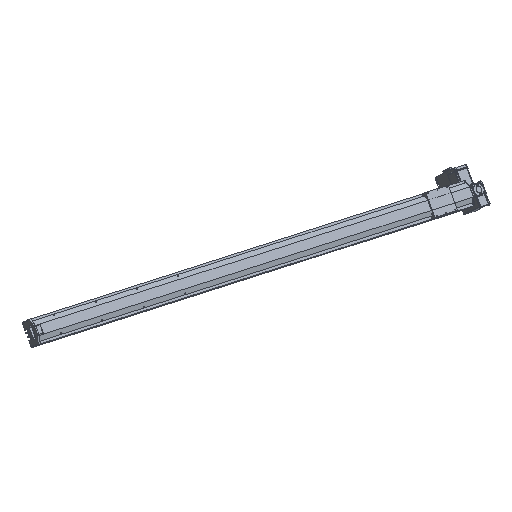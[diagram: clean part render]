
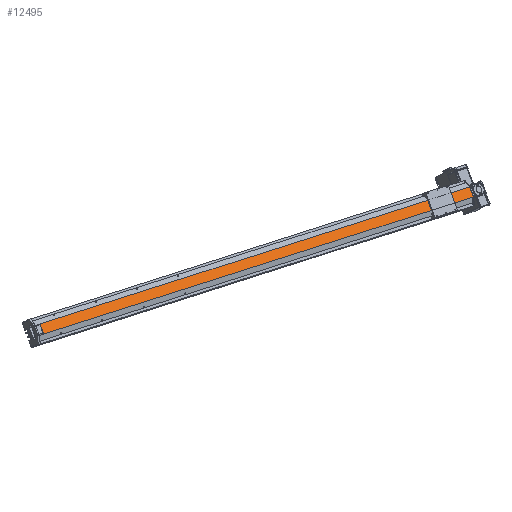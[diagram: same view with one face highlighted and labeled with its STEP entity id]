
A CAD part, front view. The second image highlights one B-rep face of the part: STEP entity #12495.
In plain terms, the highlighted planar face has unit normal (0.532, -0.806, 0.258) as drawn and (0, 1, 0) by its records, which use the part's own axes.
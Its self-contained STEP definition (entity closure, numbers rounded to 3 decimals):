
#7634 = CARTESIAN_POINT ( 'NONE',  ( 20., 61.75, 5.114 ) ) ;
#7642 = CARTESIAN_POINT ( 'NONE',  ( 20., 61.75, 0. ) ) ;
#7645 = DIRECTION ( 'NONE',  ( 0., 0., -1. ) ) ;
#7646 = VECTOR ( 'NONE', #7645, 1000. ) ;
#7654 = CARTESIAN_POINT ( 'NONE',  ( 20., 61.75, 2100. ) ) ;
#7661 = LINE ( 'NONE', #7654, #7646 ) ;
#12483 = EDGE_CURVE ( 'NONE', #12496, #12489, #22910, .T. ) ;
#12484 = EDGE_LOOP ( 'NONE', ( #12499, #12561, #12536, #12543, #12503 ) ) ;
#12488 = EDGE_CURVE ( 'NONE', #12489, #12558, #22866, .T. ) ;
#12489 = VERTEX_POINT ( 'NONE', #22948 ) ;
#12495 = ADVANCED_FACE ( 'NONE', ( #22940 ), #22900, .F. ) ;
#12496 = VERTEX_POINT ( 'NONE', #22933 ) ;
#12499 = ORIENTED_EDGE ( 'NONE', *, *, #12557, .T. ) ;
#12503 = ORIENTED_EDGE ( 'NONE', *, *, #20078, .T. ) ;
#12536 = ORIENTED_EDGE ( 'NONE', *, *, #12483, .F. ) ;
#12537 = EDGE_CURVE ( 'NONE', #12496, #20095, #23028, .T. ) ;
#12543 = ORIENTED_EDGE ( 'NONE', *, *, #12537, .T. ) ;
#12557 = EDGE_CURVE ( 'NONE', #20091, #12558, #23060, .T. ) ;
#12558 = VERTEX_POINT ( 'NONE', #23062 ) ;
#12561 = ORIENTED_EDGE ( 'NONE', *, *, #12488, .F. ) ;
#20078 = EDGE_CURVE ( 'NONE', #20095, #20091, #7661, .T. ) ;
#20091 = VERTEX_POINT ( 'NONE', #7642 ) ;
#20095 = VERTEX_POINT ( 'NONE', #7634 ) ;
#22866 = LINE ( 'NONE', #22896, #22895 ) ;
#22895 = VECTOR ( 'NONE', #22946, 1000. ) ;
#22896 = CARTESIAN_POINT ( 'NONE',  ( -20., 61.75, 2100. ) ) ;
#22900 = PLANE ( 'NONE',  #22935 ) ;
#22905 = CARTESIAN_POINT ( 'NONE',  ( 20., 61.75, 2100. ) ) ;
#22907 = DIRECTION ( 'NONE',  ( -1., 0., 0. ) ) ;
#22908 = VECTOR ( 'NONE', #22907, 1000. ) ;
#22909 = CARTESIAN_POINT ( 'NONE',  ( 20., 61.75, 2100. ) ) ;
#22910 = LINE ( 'NONE', #22909, #22908 ) ;
#22930 = DIRECTION ( 'NONE',  ( 0., 0., -1. ) ) ;
#22931 = DIRECTION ( 'NONE',  ( 0., -1., 0. ) ) ;
#22933 = CARTESIAN_POINT ( 'NONE',  ( 20., 61.75, 2100. ) ) ;
#22935 = AXIS2_PLACEMENT_3D ( 'NONE', #22905, #22931, #22930 ) ;
#22940 = FACE_OUTER_BOUND ( 'NONE', #12484, .T. ) ;
#22946 = DIRECTION ( 'NONE',  ( 0., 0., -1. ) ) ;
#22948 = CARTESIAN_POINT ( 'NONE',  ( -20., 61.75, 2100. ) ) ;
#23025 = DIRECTION ( 'NONE',  ( 0., 0., -1. ) ) ;
#23026 = VECTOR ( 'NONE', #23025, 1000. ) ;
#23027 = CARTESIAN_POINT ( 'NONE',  ( 20., 61.75, 2100. ) ) ;
#23028 = LINE ( 'NONE', #23027, #23026 ) ;
#23056 = DIRECTION ( 'NONE',  ( -1., 0., 0. ) ) ;
#23057 = VECTOR ( 'NONE', #23056, 1000. ) ;
#23058 = CARTESIAN_POINT ( 'NONE',  ( 20., 61.75, 0. ) ) ;
#23060 = LINE ( 'NONE', #23058, #23057 ) ;
#23062 = CARTESIAN_POINT ( 'NONE',  ( -20., 61.75, 0. ) ) ;
